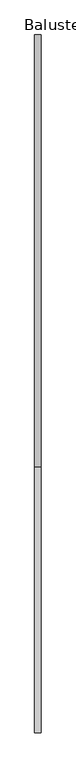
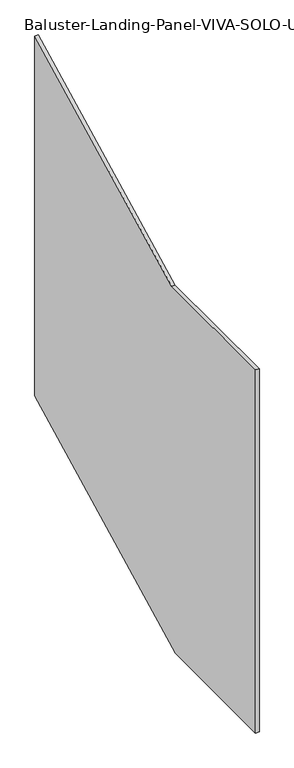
"""IFC4 building model written with IfcOpenShell, lengths in millimetres: railing geometry, Baluster-Landing-Panel-VIVA-SOLO-Upper : Standard_Glass."""

from ifc_helpers import new_model, si_unit, frame, origin, place, context, project, spatial, polyline, outline, extrude, source, transform, mapped, element, save


def baluster_landing_panel_viva_solo_upper_standard_glass_b2789405(model_context):
    return source(origin(), model_context, "Body", "SweptSolid", [
        extrude(outline(polyline([(-638.05957, 1109.345), (0.0, 1434.1720913), (0.0, 410.21), (-656.6664276, 75.910421), (-1030.397593, 75.910421), (-1030.397593, 1109.345), (-638.05957, 1109.345)])), frame((31.6077292, 0.0, 0.0), z_axis=(1.0, 0.0, 0.0), x_axis=(0.0, 1.0, 0.0)), (0.0, 0.0, 1.0), 9.525),
    ])


if __name__ == "__main__":
    model = new_model("IFC4")
    model_context = context("Model", 3, world=origin())
    ifc_project = project(units=[si_unit("LENGTHUNIT", "METRE", prefix="MILLI")], contexts=[model_context])
    site = spatial("IfcSite", under=ifc_project)
    building = spatial("IfcBuilding", under=site)
    placement = place(None, origin())
    baluster_landing_panel_viva_solo_upper_standard_glass_shape = baluster_landing_panel_viva_solo_upper_standard_glass_b2789405(model_context)
    element("IfcRailing", 1, ObjectType="Baluster-Landing-Panel-VIVA-SOLO-Upper : Standard_Glass", at=placement, inside=building, context=model_context, shape_type="MappedRepresentation", body=[
        mapped(baluster_landing_panel_viva_solo_upper_standard_glass_shape, transform((0.0, 0.0, 0.0), x_axis=(1.0, 0.0, 0.0), y_axis=(0.0, 1.0, 0.0), z_axis=(0.0, 0.0, 1.0))),
    ])
    save(model, "model.ifc")
